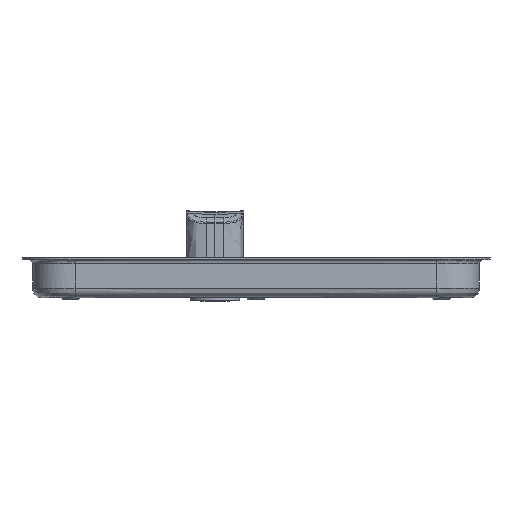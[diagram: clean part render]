
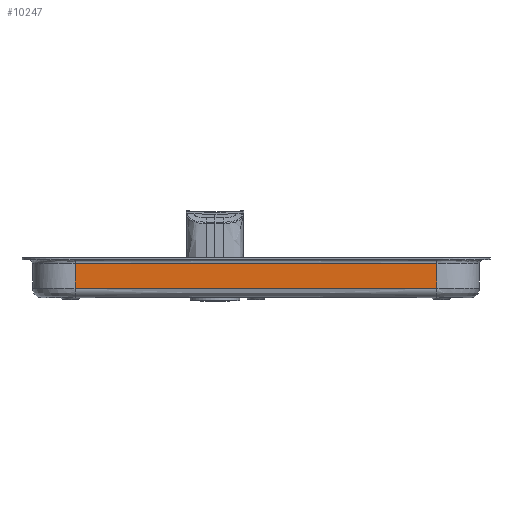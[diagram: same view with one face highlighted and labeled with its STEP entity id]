
A CAD part, left-side view. The second image highlights one B-rep face of the part: STEP entity #10247.
In plain terms, the highlighted free-form (B-spline) face has degree [2, 1] with [3, 2] control points.
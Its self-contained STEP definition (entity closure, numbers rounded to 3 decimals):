
#126=B_SPLINE_SURFACE_WITH_KNOTS('',2,1,((#17860,#17861),(#17862,#17863),
(#17864,#17865)),.UNSPECIFIED.,.F.,.F.,.F.,(3,3),(2,2),(-1.,0.),(0.,2.4),
 .UNSPECIFIED.);
#464=B_SPLINE_CURVE_WITH_KNOTS('',3,(#16838,#16839,#16840,#16841),
 .UNSPECIFIED.,.F.,.F.,(4,4),(0.,18.943),.UNSPECIFIED.);
#488=B_SPLINE_CURVE_WITH_KNOTS('',2,(#17868,#17869,#17870),
 .UNSPECIFIED.,.F.,.F.,(3,3),(0.,18.943),.UNSPECIFIED.);
#1149=LINE('',#17871,#1952);
#1150=LINE('',#17872,#1953);
#1952=VECTOR('',#11918,10.);
#1953=VECTOR('',#11919,10.);
#2760=FACE_OUTER_BOUND('',#3387,.T.);
#3387=EDGE_LOOP('',(#7458,#7459,#7460,#7461));
#4278=VERTEX_POINT('',#16800);
#4279=VERTEX_POINT('',#16837);
#4297=VERTEX_POINT('',#17866);
#4298=VERTEX_POINT('',#17867);
#5403=EDGE_CURVE('',#4279,#4278,#464,.T.);
#5444=EDGE_CURVE('',#4297,#4298,#488,.T.);
#5445=EDGE_CURVE('',#4298,#4279,#1149,.T.);
#5446=EDGE_CURVE('',#4278,#4297,#1150,.T.);
#7458=ORIENTED_EDGE('',*,*,#5444,.T.);
#7459=ORIENTED_EDGE('',*,*,#5445,.T.);
#7460=ORIENTED_EDGE('',*,*,#5403,.T.);
#7461=ORIENTED_EDGE('',*,*,#5446,.T.);
#10247=ADVANCED_FACE('',(#2760),#126,.T.);
#11918=DIRECTION('',(0.,0.,1.));
#11919=DIRECTION('',(0.,0.,-1.));
#16800=CARTESIAN_POINT('',(-107.579,96.985,7.985));
#16837=CARTESIAN_POINT('',(-107.579,-92.447,7.985));
#16838=CARTESIAN_POINT('Ctrl Pts',(-107.579,-92.447,7.985));
#16839=CARTESIAN_POINT('Ctrl Pts',(-107.579,-29.303,
7.985));
#16840=CARTESIAN_POINT('Ctrl Pts',(-107.579,33.841,7.985));
#16841=CARTESIAN_POINT('Ctrl Pts',(-107.579,96.985,7.985));
#17860=CARTESIAN_POINT('Ctrl Pts',(-107.579,-92.447,9.985));
#17861=CARTESIAN_POINT('Ctrl Pts',(-107.579,-92.447,-14.015));
#17862=CARTESIAN_POINT('Ctrl Pts',(-107.579,2.269,9.985));
#17863=CARTESIAN_POINT('Ctrl Pts',(-107.579,2.269,-14.015));
#17864=CARTESIAN_POINT('Ctrl Pts',(-107.579,96.985,9.985));
#17865=CARTESIAN_POINT('Ctrl Pts',(-107.579,96.985,-14.015));
#17866=CARTESIAN_POINT('',(-107.579,96.985,-5.015));
#17867=CARTESIAN_POINT('',(-107.579,-92.447,-5.015));
#17868=CARTESIAN_POINT('Ctrl Pts',(-107.579,96.985,-5.015));
#17869=CARTESIAN_POINT('Ctrl Pts',(-107.579,2.269,-5.015));
#17870=CARTESIAN_POINT('Ctrl Pts',(-107.579,-92.447,-5.015));
#17871=CARTESIAN_POINT('',(-107.579,-92.447,-5.015));
#17872=CARTESIAN_POINT('',(-107.579,96.985,7.985));
